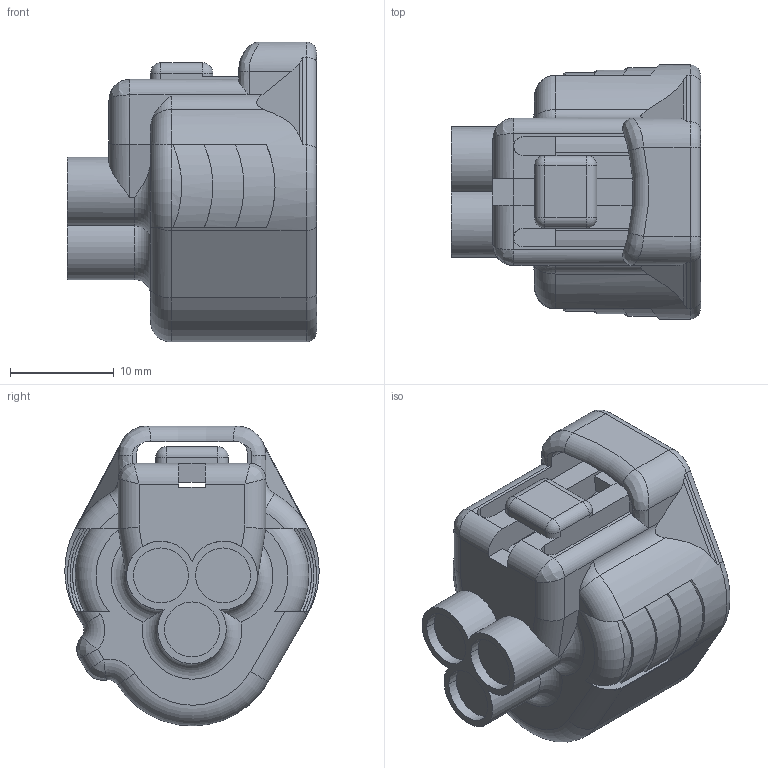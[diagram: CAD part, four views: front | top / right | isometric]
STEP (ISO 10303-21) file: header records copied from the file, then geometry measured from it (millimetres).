
FILE_DESCRIPTION(('CATIA V5 STEP Exchange'),'2;1');
FILE_NAME('N:\C-DAM_MyDesk\ENV\11093U\1設\6189-0179.stp','2013-02-28T03:05:08+00:00',('none'),('none'),'CATIA Version 5 Release 20 SP 4 (IN-10)','CATIA V5 STEP AP203','none');
FILE_SCHEMA(('CONFIG_CONTROL_DESIGN'));
Length unit declared in the file: millimetre
Products named in the file (1): 6189-0179
Bounding box: 24 x 24.5 x 28.9 mm (x, y, z)
Volume: 6615.9 mm3; surface area: 4959.8 mm2
Topology: 1 solids, 6 shells, 211 faces, 553 edges, 349 vertices
Faces by surface type: plane 86, cylinder 84, torus 22, bspline 13, sphere 4, revolution 2
Entity records: 7571 total; most frequent: CARTESIAN_POINT 2765, ORIENTED_EDGE 1090, DIRECTION 775, EDGE_CURVE 545, VERTEX_POINT 349, VECTOR 314, LINE 314, AXIS2_PLACEMENT_3D 297
